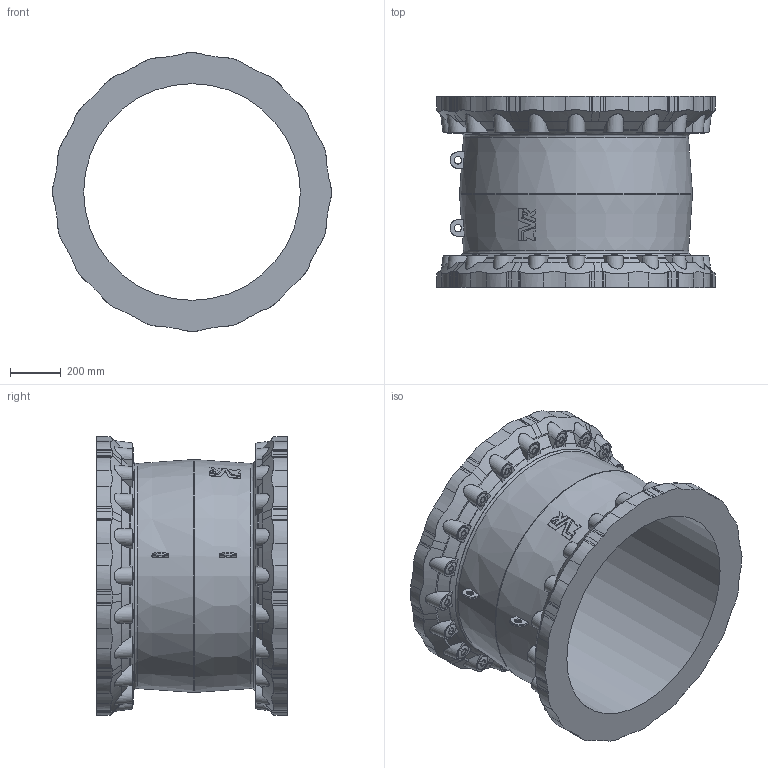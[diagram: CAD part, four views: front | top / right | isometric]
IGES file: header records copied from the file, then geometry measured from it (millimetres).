
Start section: SolidWorks IGES file using analytic representation for surfaces
Global section: file name: \\avksan2\techshare\PBM outline export from Enovia\O_631_00_DN800_XXXX_REV01.igs; native system: SolidWorks 2022; preprocessor: SolidWorks 2022; author: pbm; date: 231206.112525; units: millimetre
Bounding box: 1093.43 x 748.53 x 1093.43 mm (x, y, z)
Surface area: 5466475.1 mm2 (no closed solid volume)
Topology: 0 solids, 0 shells, 1075 faces, 5729 edges, 5717 vertices
Faces by surface type: revolution 705, bspline 370
